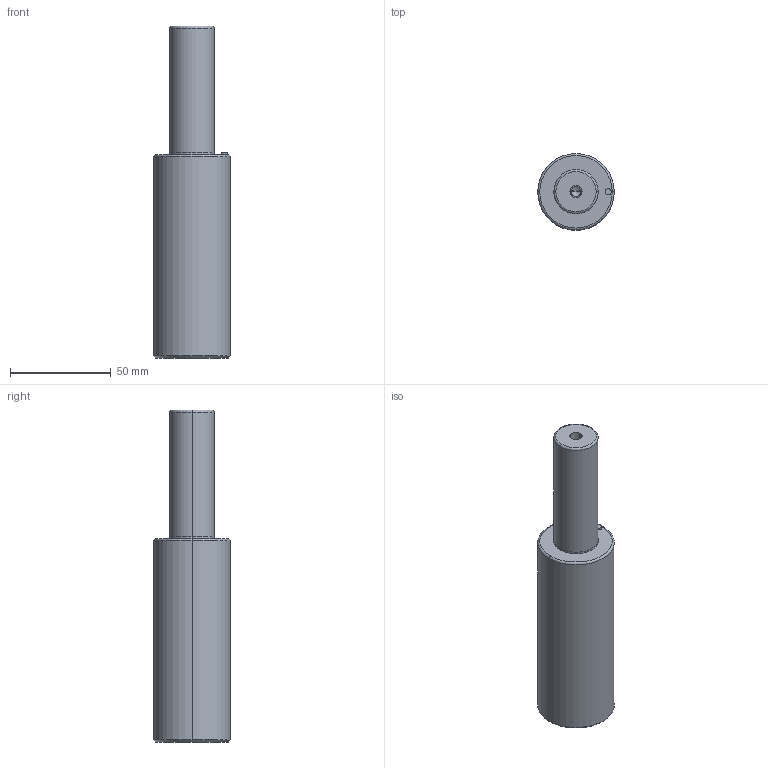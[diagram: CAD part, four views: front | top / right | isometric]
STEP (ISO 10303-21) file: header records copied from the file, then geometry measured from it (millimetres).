
FILE_DESCRIPTION(/* description */ (''),/* implementation_level */ '2;1');
FILE_NAME(/* name */ '3d_gsc38-63_03832_r00.stp',/* time_stamp */ '2011-01-10T14:15:21+09:00',/* author */ ('MISUMI'),/* organization */ (''),/* preprocessor_version */ 'ST-DEVELOPER v11',/* originating_system */ 'UGS - NX 5.0',/* authorisation */ '');
FILE_SCHEMA (('CONFIG_CONTROL_DESIGN'));
Length unit declared in the file: millimetre
Products named in the file (1): 3d_gsc38-63_03832_r00
Bounding box: 38 x 38 x 165 mm (x, y, z)
Volume: 137715.9 mm3; surface area: 19199 mm2
Topology: 1 solids, 1 shells, 32 faces, 66 edges, 38 vertices
Faces by surface type: cylinder 16, cone 6, plane 6, torus 4
Entity records: 912 total; most frequent: DIRECTION 168, CARTESIAN_POINT 133, ORIENTED_EDGE 124, AXIS2_PLACEMENT_3D 73, EDGE_CURVE 62, CIRCLE 40, EDGE_LOOP 38, VERTEX_POINT 38
